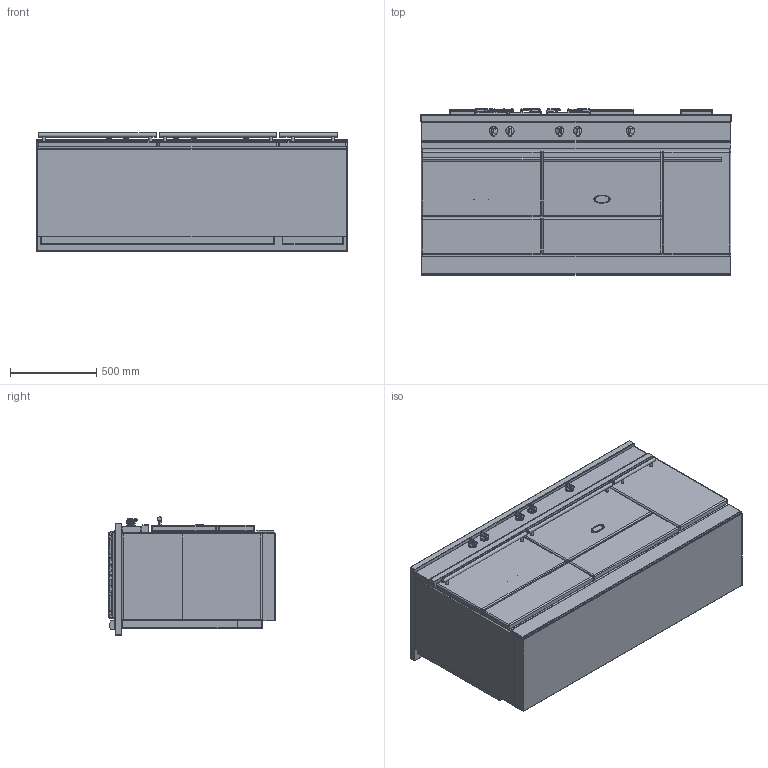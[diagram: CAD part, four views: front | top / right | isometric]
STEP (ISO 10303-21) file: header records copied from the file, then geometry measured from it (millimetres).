
FILE_DESCRIPTION((''),'2;1');
FILE_NAME('LMG1832D_ASM','2022-04-13T11:53:54',('stagiaire'),(''),'CREO PARAMETRIC BY PTC INC, 2021424','CREO PARAMETRIC BY PTC INC, 2021424','');
FILE_SCHEMA(('AP203_CONFIGURATION_CONTROLLED_3D_DESIGN_OF_MECHANICAL_PARTS_AND_ASSEMBLIES_MIM_LF { 1 0 10303 403 2 1 2 }'));
Products named in the file (20): BASE_EXPORT_SULLY_LMG1832D; 65064012; 19150009; 88064012_ASM; 65049009; 65650001; BASE_EXPORT_SULLY_LMG1832D_ASM; TABLE_SULLY_1805D_3_FEUX; 5KW; 1_5KW; 3KW; 6537025; 65149005; 90000488_ASM; 6537023; 90000565_ASM; CHEMINEE_2020_LG371_EXPORT_STEP; CHEMINEE_2020_LG182_EXPORT_STEP; TABLE_SULLY_1805D_3_FEUX_ASM; LMG1832D_ASM
Assembly tree (32 placements, depth 4):
  LMG1832D_ASM
    BASE_EXPORT_SULLY_LMG1832D_ASM
      BASE_EXPORT_SULLY_LMG1832D
      88064012_ASM  x5
        65064012
        19150009
      65049009
      65650001
    TABLE_SULLY_1805D_3_FEUX_ASM
      TABLE_SULLY_1805D_3_FEUX
      5KW
      1_5KW
      3KW
      90000488_ASM  x2
        6537025
        65149005
      90000565_ASM
        6537023
        65149005  x4
      CHEMINEE_2020_LG371_EXPORT_STEP  x2
      CHEMINEE_2020_LG182_EXPORT_STEP
Bounding box: 1805 x 965 x 688.5 mm (x, y, z)
Volume: 657126995.5 mm3; surface area: 15381733.4 mm2
Topology: 39 solids, 39 shells, 4782 faces, 13282 edges, 8497 vertices
Faces by surface type: cylinder 1697, plane 1523, bspline 930, sphere 260, cone 216, torus 134, extrusion 22
Entity records: 140122 total; most frequent: CARTESIAN_POINT 47989, ORIENTED_EDGE 15018, DIRECTION 13817, EDGE_CURVE 7509, AXIS2_PLACEMENT_3D 4644, VERTEX_POINT 4562, VECTOR 4474, LINE 4452
